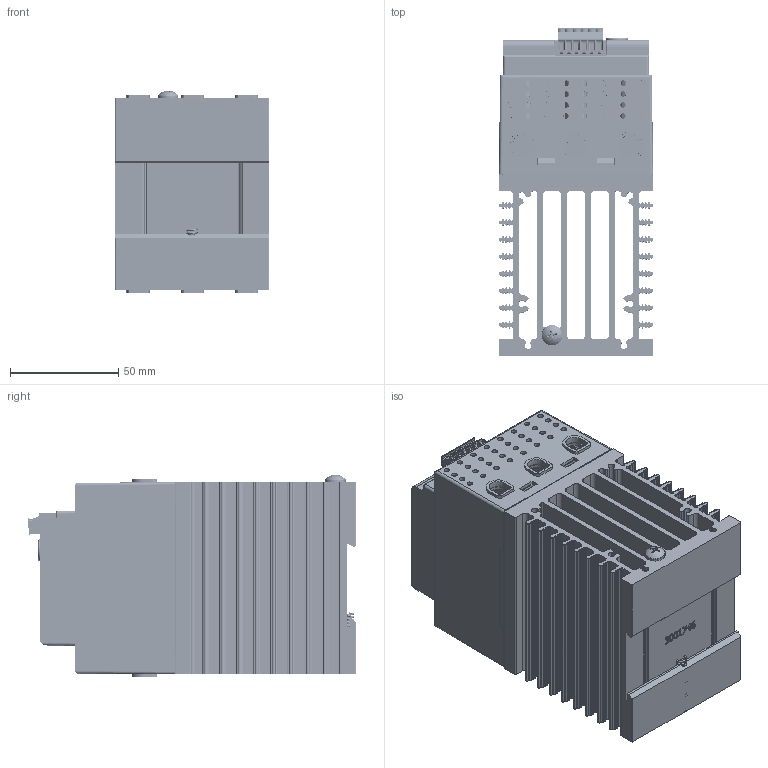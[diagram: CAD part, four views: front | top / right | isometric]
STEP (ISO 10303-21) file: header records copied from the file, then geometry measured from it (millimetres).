
FILE_DESCRIPTION(/* description */ (''),/* implementation_level */ '2;1');
FILE_NAME(/* name */ '3-phase Analog 32A.stp',/* time_stamp */ '2024-11-15T09:08:22-06:00',/* author */ ('ErikG'),/* organization */ (''),/* preprocessor_version */ 'ST-DEVELOPER v20',/* originating_system */ 'Autodesk Inventor 2025',/* authorisation */ '');
FILE_SCHEMA (('AUTOMOTIVE_DESIGN { 1 0 10303 214 3 1 1 }'));
Products named in the file (22): 3001632e; 1001590e; P3; TC0203620000G; P2; usb-c31-s-vt-cs4-bk-pp-t-r-model ADAMTECH; P1; fci 6 pin header OQ06120000J0G; fci 6 pin headerOQ06120000J0G half 1; fci 5 pin header OQ05120000J0G half 2; fci 6 pin connector TS06110B00J0G; fci 5 pin connector TS05110B00J0G LEFT HALF; fci 5 pin connector TS05110B00J0G RIGHT HALF; 3001767; 3001760; 3001759; 3001766; 3001765b; 3001746; spring; 0060783-0610-010.ipt; 0060702-1032-0375
Assembly tree (22 placements, depth 6):
  3001632e
    1001590e
      P3
        TC0203620000G
      P2
        usb-c31-s-vt-cs4-bk-pp-t-r-model ADAMTECH
      P1
        fci 6 pin header OQ06120000J0G
          fci 6 pin headerOQ06120000J0G half 1
          fci 5 pin header OQ05120000J0G half 2
          fci 6 pin connector TS06110B00J0G
            fci 5 pin connector TS05110B00J0G LEFT HALF
            fci 5 pin connector TS05110B00J0G RIGHT HALF
    3001767
    3001760  x2
    3001759
    3001766
    3001765b
    3001746
    spring
    0060783-0610-010.ipt
    0060702-1032-0375
Bounding box: 71.12 x 151.53 x 93.49 mm (x, y, z)
Volume: 295565.4 mm3; surface area: 264188.3 mm2
Topology: 17 solids, 107 shells, 6095 faces, 16908 edges, 11138 vertices
Faces by surface type: plane 4286, cylinder 1280, cone 321, bspline 138, torus 67, sphere 3
Full cylindrical faces by diameter (mm): 0.254 x1, 0.45 x2, 0.55 x2, 0.65 x2, 1 x6, 1.75 x2, 2.15 x12, 2.3 x12, 2.54 x2, 2.642 x6, 2.7 x2, 2.8 x4, 2.95 x6, 3.277 x4, 3.6 x2, 4.826 x1, 4.917 x1, 6 x1, 6.172 x1, 7.976 x1, 9.474 x1
Entity records: 218102 total; most frequent: CARTESIAN_POINT 61069, ORIENTED_EDGE 33546, DIRECTION 31224, EDGE_CURVE 16773, LINE 12240, VECTOR 12240, VERTEX_POINT 11056, AXIS2_PLACEMENT_3D 9492
